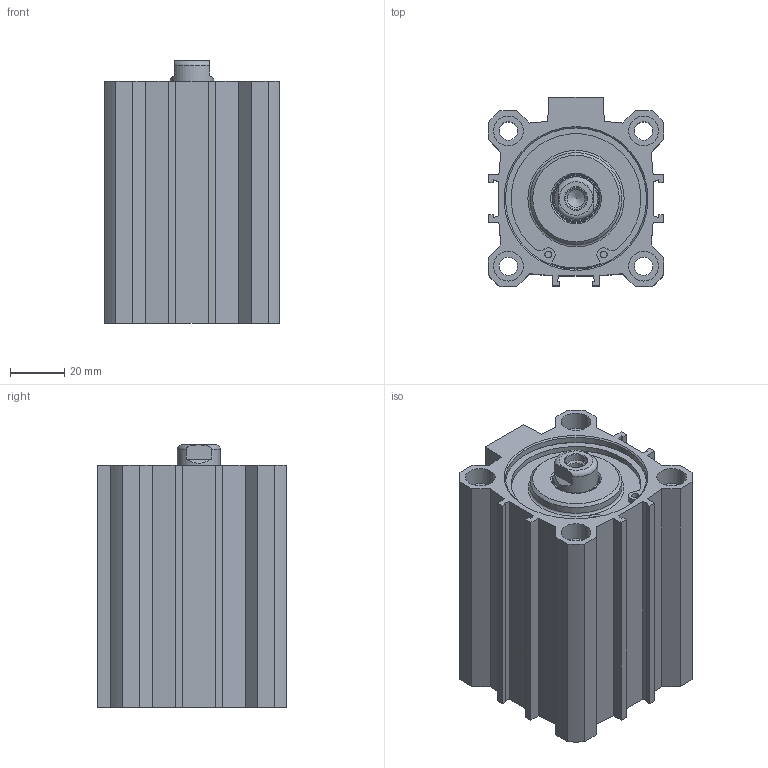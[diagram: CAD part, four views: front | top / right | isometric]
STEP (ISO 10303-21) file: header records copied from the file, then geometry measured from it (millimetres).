
FILE_DESCRIPTION(/* description */ ('Unknown'),/* implementation_level */ '2;1');
FILE_NAME(/* name */ 'FEN 50_40',/* time_stamp */ '2026-06-09T11:12:40+02:00',/* author */ ('Unknown'),/* organization */ ('Unknown'),/* preprocessor_version */ 'ST-DEVELOPER v18.102',/* originating_system */ 'Solid Edge',/* authorisation */ 'Unknown');
FILE_SCHEMA (('AUTOMOTIVE_DESIGN {1 0 10303 214 3 1 1}'));
Length unit declared in the file: millimetre
Products named in the file (5): FEN 50_40; Kit_1; Profilrohr; Kit_2; Kolbenstange
Assembly tree (4 placements, depth 2):
  FEN 50_40
    Kit_1
    Profilrohr
    Kit_2
    Kolbenstange
Bounding box: 65 x 70 x 97 mm (x, y, z)
Volume: 236593.8 mm3; surface area: 82111.3 mm2
Topology: 4 solids, 4 shells, 204 faces, 481 edges, 307 vertices
Faces by surface type: plane 106, cylinder 58, cone 30, torus 10
Full cylindrical faces by diameter (mm): 2.5 x4, 2.75 x2, 6.647 x2, 6.8 x4, 8.25 x1, 8.566 x4, 11 x8, 16 x1, 16.54 x1, 17.7 x1, 20.32 x1, 20.5 x1, 34 x1, 37 x1, 50 x2, 51.8 x4, 52.2 x2, 55.2 x2
Entity records: 6966 total; most frequent: CARTESIAN_POINT 1012, DIRECTION 948, ORIENTED_EDGE 772, EDGE_CURVE 386, AXIS2_PLACEMENT_3D 363, FACE_BOUND 323, EDGE_LOOP 322, VERTEX_POINT 293
